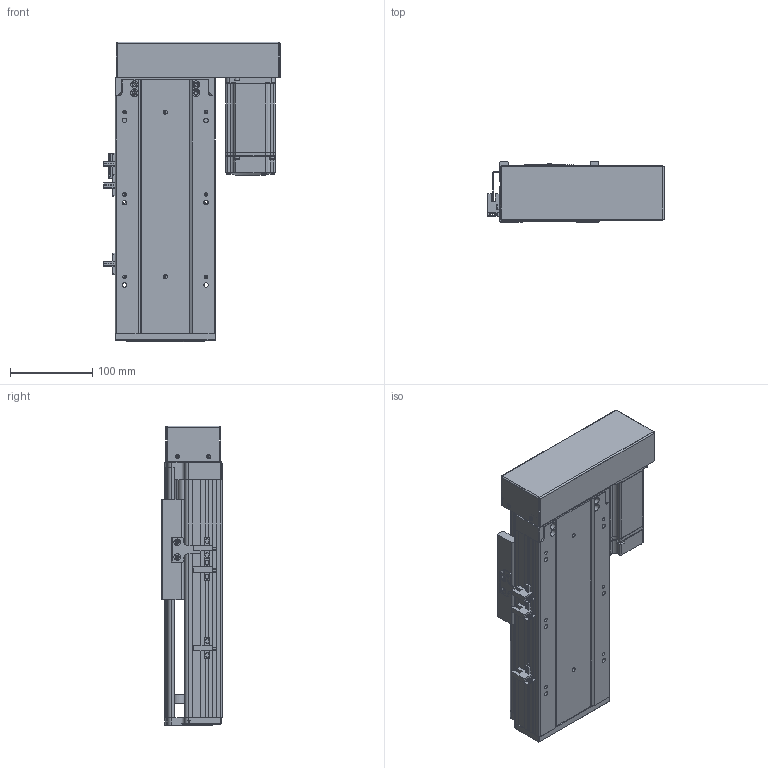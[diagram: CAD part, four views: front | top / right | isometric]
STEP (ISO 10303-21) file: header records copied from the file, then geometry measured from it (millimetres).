
FILE_DESCRIPTION (( 'STEP AP203' ), '1' );
FILE_NAME ('RY120-L1620-300-RK.SLDASM_100.step', '2021-02-22T02:29:24', ( '盈信电脑' ), ( '东莞市道滘镇水果街19号' ), 'SwSTEP 2.0', 'SolidWorks 2012', '' );
FILE_SCHEMA (( 'CONFIG_CONTROL_DESIGN' ));
Products named in the file (14): RY120蛌殏萇儂欶; 侂狟400W侜督萇儂; RY120-L1620-300-RK.SLDASM_100; RY120转拆电端丝杆支撑座; RY120酘殏萇儂假蚾啣; 15; RY120外置感应片(140共用）; RY120綴裔啣; 滅袉蝶18-10; 滅袉蝶18-24; 覜茼ん672; RY120-300-RK蛌殏倰第奻裔啣_100; RY120-300-RK蛌殏倰第菁釱_100; RY120臏賑輸
Assembly tree (16 placements, depth 3):
  RY120-L1620-300-RK.SLDASM_100
    RY120-300-RK蛌殏倰第菁釱_100
    RY120-300-RK蛌殏倰第奻裔啣_100
    RY120臏賑輸
    RY120綴裔啣
    覜茼ん672  x3
    滅袉蝶18-10
    滅袉蝶18-24  x2
    RY120外置感应片(140共用）
    RY120转拆电端丝杆支撑座
    RY120酘殏萇儂假蚾啣
    侂狟400W侜督萇儂
      15
    RY120蛌殏萇儂欶
Bounding box: 214.4 x 73 x 364 mm (x, y, z)
Volume: 1620828.5 mm3; surface area: 533635.2 mm2
Topology: 16 solids, 16 shells, 2176 faces, 5927 edges, 3808 vertices
Faces by surface type: plane 1176, cylinder 732, cone 163, bspline 105
Entity records: 70410 total; most frequent: CARTESIAN_POINT 18985, ORIENTED_EDGE 10638, DIRECTION 9947, EDGE_CURVE 5319, VERTEX_POINT 3476, VECTOR 3469, LINE 3469, AXIS2_PLACEMENT_3D 3239
